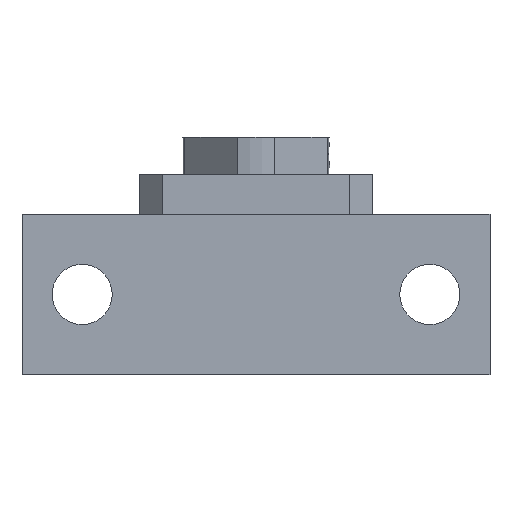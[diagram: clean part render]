
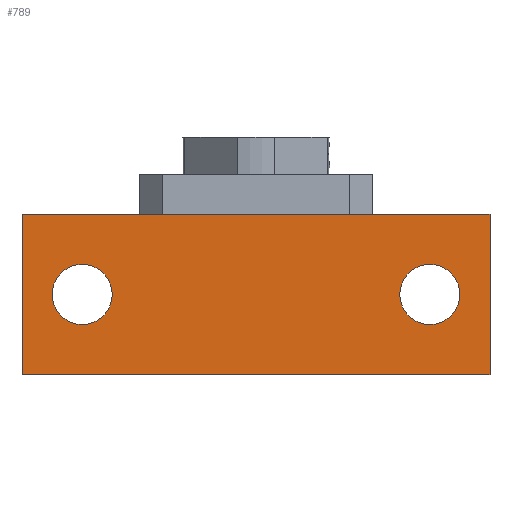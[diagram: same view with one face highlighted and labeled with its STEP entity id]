
A CAD part, front view. The second image highlights one B-rep face of the part: STEP entity #789.
In plain terms, the highlighted planar face has unit normal (0, -1, 0).
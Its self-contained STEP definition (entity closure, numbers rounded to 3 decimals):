
#29=LINE($,#1282,#99);
#73=LINE($,#1410,#143);
#81=LINE($,#1425,#151);
#82=LINE($,#1427,#152);
#99=VECTOR($,#917,70.);
#143=VECTOR($,#1051,24.);
#151=VECTOR($,#1067,24.);
#152=VECTOR($,#1070,70.);
#241=FACE_BOUND($,#312,.T.);
#242=FACE_BOUND($,#313,.T.);
#243=FACE_BOUND($,#314,.T.);
#312=EDGE_LOOP($,(#691));
#313=EDGE_LOOP($,(#692));
#314=EDGE_LOOP($,(#693,#694,#695,#696));
#337=CIRCLE($,#851,4.5);
#339=CIRCLE($,#854,4.5);
#371=VERTEX_POINT($,#1279);
#372=VERTEX_POINT($,#1281);
#407=VERTEX_POINT($,#1399);
#409=VERTEX_POINT($,#1404);
#411=VERTEX_POINT($,#1409);
#414=VERTEX_POINT($,#1423);
#447=EDGE_CURVE($,#372,#371,#29,.T.);
#501=EDGE_CURVE($,#407,#407,#337,.T.);
#503=EDGE_CURVE($,#409,#409,#339,.T.);
#505=EDGE_CURVE($,#372,#411,#73,.T.);
#513=EDGE_CURVE($,#371,#414,#81,.T.);
#514=EDGE_CURVE($,#411,#414,#82,.T.);
#691=ORIENTED_EDGE($,*,*,#501,.T.);
#692=ORIENTED_EDGE($,*,*,#503,.T.);
#693=ORIENTED_EDGE($,*,*,#447,.T.);
#694=ORIENTED_EDGE($,*,*,#513,.T.);
#695=ORIENTED_EDGE($,*,*,#514,.F.);
#696=ORIENTED_EDGE($,*,*,#505,.F.);
#744=PLANE($,#861);
#789=ADVANCED_FACE($,(#241,#242,#243),#744,.T.);
#851=AXIS2_PLACEMENT_3D($,#1400,#1039,#1040);
#854=AXIS2_PLACEMENT_3D($,#1405,#1045,#1046);
#861=AXIS2_PLACEMENT_3D($,#1426,#1068,#1069);
#917=DIRECTION($,(1.,0.,0.));
#1039=DIRECTION('center_axis',(0.,1.,0.));
#1040=DIRECTION('ref_axis',(1.,0.,0.));
#1045=DIRECTION('center_axis',(0.,1.,0.));
#1046=DIRECTION('ref_axis',(1.,0.,0.));
#1051=DIRECTION($,(0.,0.,1.));
#1067=DIRECTION($,(0.,0.,1.));
#1068=DIRECTION('center_axis',(0.,-1.,0.));
#1069=DIRECTION('ref_axis',(1.,0.,0.));
#1070=DIRECTION($,(1.,0.,0.));
#1279=CARTESIAN_POINT('',(70.,0.,0.));
#1281=CARTESIAN_POINT('',(0.,0.,0.));
#1282=CARTESIAN_POINT($,(0.,0.,0.));
#1399=CARTESIAN_POINT('',(4.5,0.,12.));
#1400=CARTESIAN_POINT('Origin',(9.,0.,12.));
#1404=CARTESIAN_POINT('',(56.5,0.,12.));
#1405=CARTESIAN_POINT('Origin',(61.,0.,12.));
#1409=CARTESIAN_POINT('',(0.,0.,24.));
#1410=CARTESIAN_POINT($,(0.,0.,0.));
#1423=CARTESIAN_POINT('',(70.,0.,24.));
#1425=CARTESIAN_POINT($,(70.,0.,0.));
#1426=CARTESIAN_POINT('Origin',(0.,0.,0.));
#1427=CARTESIAN_POINT($,(0.,0.,24.));
